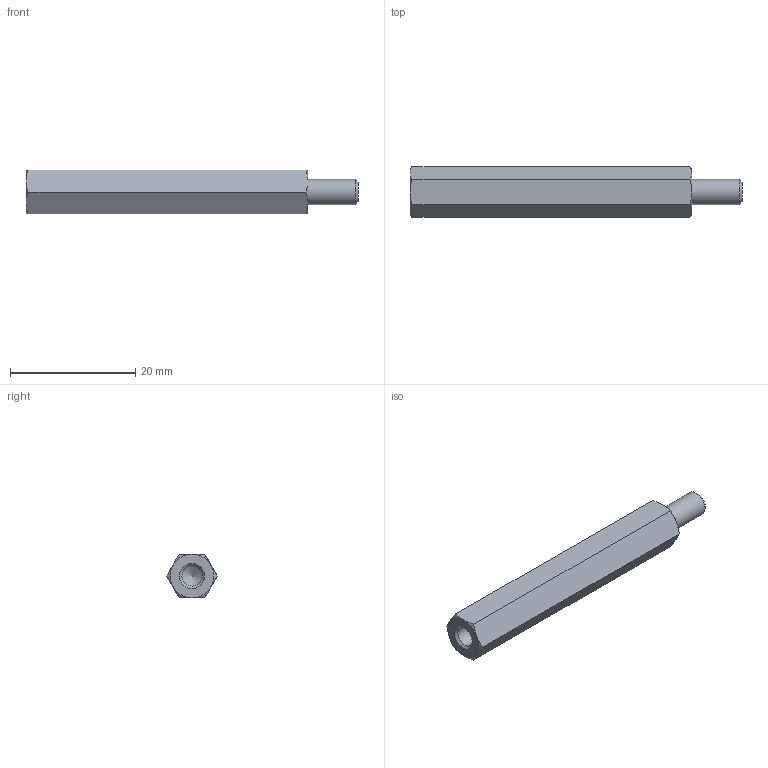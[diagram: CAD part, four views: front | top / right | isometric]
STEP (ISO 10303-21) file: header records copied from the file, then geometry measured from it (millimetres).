
FILE_DESCRIPTION( ( 'STEP AP203' ), '1' );
FILE_NAME( 'C:/Temp/Ganter_Step_05_03_2020/data/3_2/gn6220/gn6220_ni/Stainless Steel-Spacer GN 6220-NI-M4-45-B.stp', '2020-03-13T05:43:11', ( 'License CC BY-ND 4.0' ), ( 'CADENAS' ), ' ', 'PARTsolutions', ' ' );
FILE_SCHEMA( ( 'CONFIG_CONTROL_DESIGN' ) );
Length unit declared in the file: millimetre
Products named in the file (1): _Stainless Steel-Spacer GN 6220-NI-M4-45-B
Bounding box: 53 x 8.08 x 7 mm (x, y, z)
Volume: 1890.9 mm3; surface area: 1409.1 mm2
Topology: 1 solids, 1 shells, 26 faces, 55 edges, 32 vertices
Faces by surface type: cone 15, plane 9, cylinder 2
Full cylindrical faces by diameter (mm): 3.242 x1, 4 x1
Entity records: 746 total; most frequent: CARTESIAN_POINT 210, DIRECTION 96, ORIENTED_EDGE 96, EDGE_CURVE 48, AXIS2_PLACEMENT_3D 45, EDGE_LOOP 32, VERTEX_POINT 31, FACE_OUTER_BOUND 28
